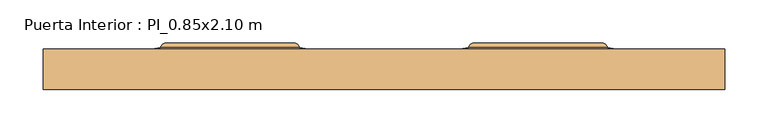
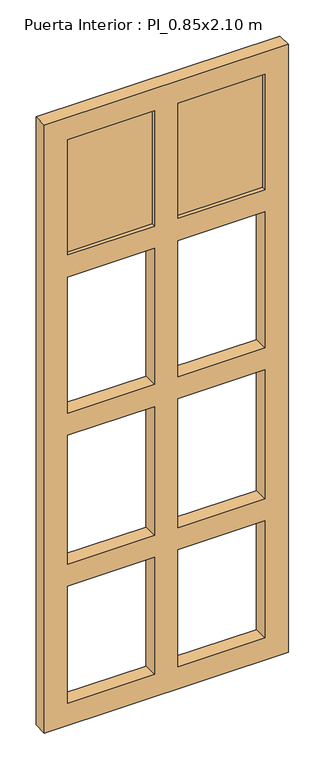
"""IFC4 building model written with IfcOpenShell, lengths in millimetres: door geometry, Puerta Interior : PI_0.85x2.10 m."""

import ifcopenshell
import ifcopenshell.guid

model = None  # the IFC model being written
_history = None  # IfcOwnerHistory: only IFC2X3 demands one
_inside = {}  # id of a spatial element -> (the spatial element, [elements in it])
_under = {}  # id of a project, library or spatial element -> (it, [spatial elements below it])
_declared = {}  # id of a project -> (the project, [libraries it declares])
_typed = {}  # id of a type object -> (the type object, [elements of that type])
_made_of = {}  # id of a material, layer set ... -> (it, [elements and type objects made of it])


def new_model(schema):
    """Start an empty IFC model of exactly this schema.

    Asked for "IFC4X3", IfcOpenShell would pick the latest addendum, in which some entities
    have other attributes; the version numbers below select the first issue.
    IFC2X3 requires an IfcOwnerHistory on every rooted entity: one is made here for all.
    """
    global model, _history
    if schema == "IFC4X3":
        model = ifcopenshell.file(schema_version=(4, 3, 0, 0))
    else:
        model = ifcopenshell.file(schema=schema)
    _inside.clear()
    _under.clear()
    _declared.clear()
    _typed.clear()
    _made_of.clear()
    _history = None
    if model.schema == "IFC2X3":
        org = make("IfcOrganization", Name="unknown")
        user = make(
            "IfcPersonAndOrganization",
            ThePerson=make("IfcPerson", FamilyName="unknown"),
            TheOrganization=org,
        )
        app = make(
            "IfcApplication",
            ApplicationDeveloper=org,
            Version="unknown",
            ApplicationFullName="unknown",
            ApplicationIdentifier="unknown",
        )
        _history = make(
            "IfcOwnerHistory",
            OwningUser=user,
            OwningApplication=app,
            ChangeAction="ADDED",
            CreationDate=0,
        )
    return model


def make(cls, **values):
    """One entity of the class cls with the attributes given. An attribute that is None is left unset."""
    return model.create_entity(
        cls, **{name: value for name, value in values.items() if value is not None}
    )


def rooted(cls, **values):
    """An entity with a GlobalId (a new one), such as an element, a storey or a relation."""
    return make(cls, GlobalId=ifcopenshell.guid.new(), OwnerHistory=_history, **values)


def si_unit(unit_type, name, prefix=None):
    """IfcSIUnit, for example si_unit("LENGTHUNIT", "METRE", prefix="MILLI")."""
    return make("IfcSIUnit", UnitType=unit_type, Prefix=prefix, Name=name)


def assignment(units):
    """IfcUnitAssignment: the units of a project."""
    return None if units is None else make("IfcUnitAssignment", Units=units)


def point(xyz):
    """IfcCartesianPoint."""
    return None if xyz is None else make("IfcCartesianPoint", Coordinates=xyz)


def direction(xyz):
    """IfcDirection."""
    return None if xyz is None else make("IfcDirection", DirectionRatios=xyz)


def frame(location, z_axis=None, x_axis=None):
    """IfcAxis2Placement3D, a coordinate frame: its origin and axes. An axis left out is left unset."""
    return make(
        "IfcAxis2Placement3D",
        Location=point(location),
        Axis=direction(z_axis),
        RefDirection=direction(x_axis),
    )


def origin():
    """The frame at (0, 0, 0) with its axes left unset."""
    return frame((0.0, 0.0, 0.0))


def place(relative_to, where):
    """IfcLocalPlacement: puts the frame where relative to a parent placement (None: the world)."""
    return make(
        "IfcLocalPlacement", PlacementRelTo=relative_to, RelativePlacement=where
    )


def context(
    kind, dimensions, precision=None, world=None, true_north=None, identifier=None
):
    """IfcGeometricRepresentationContext, for example the 3D "Model" context."""
    return make(
        "IfcGeometricRepresentationContext",
        ContextIdentifier=identifier,
        ContextType=kind,
        CoordinateSpaceDimension=dimensions,
        Precision=precision,
        WorldCoordinateSystem=world,
        TrueNorth=true_north,
    )


def project(units=None, contexts=None):
    """IfcProject with its units and contexts."""
    return rooted(
        "IfcProject",
        Name="project",
        RepresentationContexts=contexts,
        UnitsInContext=assignment(units),
    )


def spatial(cls, under=None, at=None, **own):
    """A site, building, storey or space (cls), placed at a placement, below another one or the project."""
    s = rooted(cls, ObjectPlacement=at, **own)
    if under is not None:
        _under.setdefault(under.id(), (under, []))[1].append(s)
    return s


def polyline(points):
    """IfcPolyline through the points."""
    return make("IfcPolyline", Points=[point(p) for p in points])


def ellipse_curve(where, semi_axis1, semi_axis2):
    """IfcEllipse in the frame where."""
    return make(
        "IfcEllipse", Position=where, SemiAxis1=semi_axis1, SemiAxis2=semi_axis2
    )


def outline(outer, holes=None, kind="AREA"):
    """IfcArbitraryClosedProfileDef: a profile drawn as a closed curve; with holes, ...WithVoids."""
    if holes is None:
        return make("IfcArbitraryClosedProfileDef", ProfileType=kind, OuterCurve=outer)
    return make(
        "IfcArbitraryProfileDefWithVoids",
        ProfileType=kind,
        OuterCurve=outer,
        InnerCurves=holes,
    )


def extrude(swept, where, along, depth):
    """IfcExtrudedAreaSolid: the profile swept, set in the frame where, extruded along a direction by depth."""
    return make(
        "IfcExtrudedAreaSolid",
        SweptArea=swept,
        Position=where,
        ExtrudedDirection=direction(along),
        Depth=depth,
    )


def shape(context_of_items, identifier, shape_type, items):
    """IfcShapeRepresentation: the items that make up one representation, for example the "Body"."""
    return make(
        "IfcShapeRepresentation",
        ContextOfItems=context_of_items,
        RepresentationIdentifier=identifier,
        RepresentationType=shape_type,
        Items=items,
    )


def source(mapping_origin, context_of_items, identifier, shape_type, items):
    """IfcRepresentationMap: a shape defined once, which mapped items show again and again."""
    return make(
        "IfcRepresentationMap",
        MappingOrigin=mapping_origin,
        MappedRepresentation=shape(context_of_items, identifier, shape_type, items),
    )


def transform(
    local_origin,
    x_axis=None,
    y_axis=None,
    z_axis=None,
    scale=None,
    scale2=None,
    scale3=None,
    uniform=True,
):
    """IfcCartesianTransformationOperator3D, or its non-uniform kind. x_axis, y_axis, z_axis: its Axis1, 2, 3."""
    if uniform:
        return make(
            "IfcCartesianTransformationOperator3D",
            Axis1=direction(x_axis),
            Axis2=direction(y_axis),
            LocalOrigin=point(local_origin),
            Scale=scale,
            Axis3=direction(z_axis),
        )
    return make(
        "IfcCartesianTransformationOperator3DnonUniform",
        Axis1=direction(x_axis),
        Axis2=direction(y_axis),
        LocalOrigin=point(local_origin),
        Scale=scale,
        Axis3=direction(z_axis),
        Scale2=scale2,
        Scale3=scale3,
    )


def mapped(mapping_source, mapping_target):
    """IfcMappedItem: shows the shape of a source again, moved by a transform."""
    return make(
        "IfcMappedItem", MappingSource=mapping_source, MappingTarget=mapping_target
    )


def made_of(thing, what):
    """Note that an element or type object is made of a material, layer set ...; save() writes the relation."""
    if what is not None:
        _made_of.setdefault(what.id(), (what, []))[1].append(thing)
    return thing


def element(
    cls,
    number,
    at=None,
    inside=None,
    cuts=None,
    type_object=None,
    material=None,
    context=None,
    identifier="Body",
    shape_type=None,
    held_by="IfcProductDefinitionShape",
    body=None,
    shapes=None,
    **own,
):
    """One element of the class cls, such as IfcWall. Its Tag is "e" and its number.

    at: its placement. inside: the storey or other place that contains it. cuts: it is an
    opening in that element (IfcRelVoidsElement). A single representation is given by context,
    identifier, shape_type and body (its items); several are given by shapes. held_by: the class
    of the entity that holds the representations. save() writes the other relations.
    """
    e = rooted(cls, Tag="e%d" % number, ObjectPlacement=at, **own)
    if body is not None:
        shapes = [shape(context, identifier, shape_type, body)]
    if shapes is not None:
        e.Representation = make(held_by, Representations=shapes)
    if inside is not None:
        _inside.setdefault(inside.id(), (inside, []))[1].append(e)
    if cuts is not None:
        rooted(
            "IfcRelVoidsElement", RelatingBuildingElement=cuts, RelatedOpeningElement=e
        )
    if type_object is not None:
        _typed.setdefault(type_object.id(), (type_object, []))[1].append(e)
    return made_of(e, material)


def aggregate(whole, parts):
    """IfcRelAggregates: a whole, such as a stair, and the parts it consists of."""
    return rooted("IfcRelAggregates", RelatingObject=whole, RelatedObjects=parts)


def save(model, path):
    """Write the relations noted so far, then the file.

    IfcRelAggregates (storeys below a building ...), IfcRelContainedInSpatialStructure (elements
    in a storey), IfcRelDefinesByType, IfcRelAssociatesMaterial and IfcRelDeclares: one each for
    every whole, place, type object, material and project.
    """
    for whole, parts in _under.values():
        aggregate(whole, parts)
    for where, things in _inside.values():
        rooted(
            "IfcRelContainedInSpatialStructure",
            RelatedElements=things,
            RelatingStructure=where,
        )
    for kind, things in _typed.values():
        rooted("IfcRelDefinesByType", RelatedObjects=things, RelatingType=kind)
    for what, things in _made_of.values():
        rooted("IfcRelAssociatesMaterial", RelatedObjects=things, RelatingMaterial=what)
    for by, libraries in _declared.values():
        rooted("IfcRelDeclares", RelatingContext=by, RelatedDefinitions=libraries)
    model.write(path)


def plane_surface(at):
    """IfcPlane: the flat surface through the origin of the frame at, square to its z axis."""
    return make("IfcPlane", Position=at)


def cylinder_surface(at, radius):
    """IfcCylindricalSurface: all points at the distance radius from the z axis of the frame at."""
    return make("IfcCylindricalSurface", Position=at, Radius=radius)


def advanced_brep(points, edges, surfaces, faces):
    """IfcAdvancedBrep: a solid bounded by faces that lie on surfaces and meet in shared edges.

    An edge is (start, end): straight between two places in points (the first is 0);
    or (start, end, curve); or (start, end, curve, False) where it runs against its curve.
    A face is (place in surfaces, loops), or (place, loops, False) where it looks against
    its surface's normal. A loop lists edges by number (the first is 1), with a minus sign
    where the edge is run from its end to its start. The first loop is the outer one.
    """
    corners = [point(p) for p in points]
    vertices = [make("IfcVertexPoint", VertexGeometry=c) for c in corners]
    made = []
    for start, end, *more in edges:
        made.append(
            make(
                "IfcEdgeCurve",
                EdgeStart=vertices[start],
                EdgeEnd=vertices[end],
                EdgeGeometry=more[0] if more else make("IfcPolyline", Points=[corners[start], corners[end]]),
                SameSense=more[1] if len(more) > 1 else True,
            )
        )
    hull = []
    for where, loops, *sense in faces:
        bounds = []
        for j, loop in enumerate(loops):
            ring = [make("IfcOrientedEdge", EdgeElement=made[abs(k) - 1], Orientation=k > 0) for k in loop]
            bounds.append(
                make(
                    "IfcFaceOuterBound" if j == 0 else "IfcFaceBound",
                    Bound=make("IfcEdgeLoop", EdgeList=ring),
                    Orientation=True,
                )
            )
        hull.append(make("IfcAdvancedFace", Bounds=bounds, FaceSurface=surfaces[where], SameSense=sense[0] if sense else True))
    return make("IfcAdvancedBrep", Outer=make("IfcClosedShell", CfsFaces=hull))


def puerta_interior_pi_0_85x2_10_m_d21131e5(model_context):
    return source(origin(), model_context, "Body", "SolidModel", [
        advanced_brep(
        [(-237.0, 0.0, 1912.0), (-117.5, 0.0, 1912.0), (-117.5, 0.0, 1680.0087316), (-237.0, 0.0, 1680.0087316), (-317.0, -35.0, 1600.0087316), (-37.5, -35.0, 1600.0087316), (-37.5, -35.0, 1992.0), (-317.0, -35.0, 1992.0), (-237.0, 5.0, 1912.0), (-237.0, 5.0, 1680.0087316), (-317.0, -10.0, 1992.0), (-317.0, -10.0, 1600.0087316), (-257.0, 0.0, 1932.0), (-257.0, 0.0, 1660.0087316), (-247.0, 0.0, 1922.0), (-247.0, 0.0, 1670.0087316), (-242.0, 5.0, 1917.0), (-242.0, 5.0, 1675.0087316), (-242.0, 0.0, 1675.0087316), (-242.0, 0.0, 1917.0), (-117.5, 5.0, 1680.0087316), (-37.5, -10.0, 1600.0087316), (-97.5, 0.0, 1660.0087316), (-107.5, 0.0, 1670.0087316), (-112.5, 5.0, 1675.0087316), (-112.5, 0.0, 1675.0087316), (-117.5, 5.0, 1912.0), (-37.5, -10.0, 1992.0), (-97.5, 0.0, 1932.0), (-107.5, 0.0, 1922.0), (-112.5, 5.0, 1917.0), (-112.5, 0.0, 1917.0)],
        [
            (0, 1),
            (1, 2),
            (2, 3),
            (3, 0),
            (4, 5),
            (5, 6),
            (6, 7),
            (7, 4),
            (8, 0),
            (3, 9),
            (9, 8),
            (10, 11),
            (11, 4),
            (7, 10),
            (10, 12),
            (12, 13),
            (13, 11),
            (12, 14, ellipse_curve(frame((-252.0, 0.0, 1927.0), z_axis=(-0.7071067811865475, 0.0, -0.7071067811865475), x_axis=(-0.7071067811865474, 0.0, 0.7071067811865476)), 7.0710678, 5.0)),
            (14, 15),
            (15, 13, ellipse_curve(frame((-252.0, 0.0, 1665.0087316), z_axis=(-0.7071067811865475, 0.0, 0.7071067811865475), x_axis=(0.7071067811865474, 0.0, 0.7071067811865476)), 7.0710678, 5.0)),
            (16, 17),
            (17, 18),
            (18, 19),
            (19, 16),
            (2, 20),
            (20, 9),
            (11, 21),
            (21, 5),
            (13, 22),
            (22, 21),
            (15, 23),
            (23, 22, ellipse_curve(frame((-102.5, 0.0, 1665.0087316), z_axis=(-0.7071067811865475, 0.0, -0.7071067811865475), x_axis=(-0.7071067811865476, 0.0, 0.7071067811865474)), 7.0710678, 5.0)),
            (17, 24),
            (24, 25),
            (25, 18),
            (1, 26),
            (26, 20),
            (21, 27),
            (27, 6),
            (22, 28),
            (28, 27),
            (23, 29),
            (29, 28, ellipse_curve(frame((-102.5, 0.0, 1927.0), z_axis=(0.7071067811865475, 0.0, -0.7071067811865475), x_axis=(-0.7071067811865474, 0.0, -0.7071067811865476)), 7.0710678, 5.0)),
            (24, 30),
            (30, 31),
            (31, 25),
            (8, 26),
            (27, 10),
            (28, 12),
            (29, 14),
            (31, 19),
            (30, 16),
        ],
        [
            plane_surface(frame((-237.0, 0.0, 1912.0), z_axis=(0.0, 1.0, 0.0), x_axis=(0.0, 0.0, -1.0))),
            plane_surface(frame((-237.0, -35.0, 1912.0), z_axis=(0.0, -1.0, 0.0), x_axis=(0.0, 0.0, 1.0))),
            plane_surface(frame((-237.0, 5.0, 1912.0), z_axis=(1.0, 0.0, 0.0), x_axis=(0.0, 0.0, -1.0))),
            plane_surface(frame((-317.0, -35.0, 1992.0), z_axis=(-1.0, 0.0, 0.0), x_axis=(0.0, 0.0, -1.0))),
            plane_surface(frame((-317.0, -10.0, 1992.0), z_axis=(-0.1643989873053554, 0.9863939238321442, 0.0), x_axis=(0.0, 0.0, -1.0))),
            cylinder_surface(frame((-252.0, 0.0, 1992.0), z_axis=(0.0, 0.0, 1.0), x_axis=(0.0, -1.0, 0.0)), 5.0),
            plane_surface(frame((-242.0, 0.0, 1917.0), z_axis=(-1.0, 0.0, 0.0), x_axis=(0.0, 0.0, -1.0))),
            plane_surface(frame((-237.0, 5.0, 1680.0087316), z_axis=(0.0, 0.0, 1.0), x_axis=(1.0, 0.0, 0.0))),
            plane_surface(frame((-317.0, -35.0, 1600.0087316), z_axis=(0.0, 0.0, -1.0), x_axis=(1.0, 0.0, 0.0))),
            plane_surface(frame((-317.0, -10.0, 1600.0087316), z_axis=(0.0, 0.9863939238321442, -0.1643989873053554), x_axis=(1.0, 0.0, 0.0))),
            cylinder_surface(frame((-317.0, 0.0, 1665.0087316), z_axis=(-1.0, 0.0, 0.0), x_axis=(0.0, -1.0, 0.0)), 5.0),
            plane_surface(frame((-242.0, 0.0, 1675.0087316), z_axis=(0.0, 0.0, -1.0), x_axis=(1.0, 0.0, 0.0))),
            plane_surface(frame((-117.5, 5.0, 1680.0087316), z_axis=(-1.0, 0.0, 0.0), x_axis=(0.0, 0.0, 1.0))),
            plane_surface(frame((-37.5, -35.0, 1600.0087316), z_axis=(1.0, 0.0, 0.0), x_axis=(0.0, 0.0, 1.0))),
            plane_surface(frame((-37.5, -10.0, 1600.0087316), z_axis=(0.1643989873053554, 0.9863939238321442, 0.0), x_axis=(0.0, 0.0, 1.0))),
            cylinder_surface(frame((-102.5, 0.0, 1600.0087316), z_axis=(0.0, 0.0, -1.0), x_axis=(0.0, -1.0, 0.0)), 5.0),
            plane_surface(frame((-112.5, 0.0, 1675.0087316), z_axis=(1.0, 0.0, 0.0), x_axis=(0.0, 0.0, 1.0))),
            plane_surface(frame((-117.5, 5.0, 1912.0), z_axis=(0.0, 0.0, -1.0), x_axis=(-1.0, 0.0, 0.0))),
            plane_surface(frame((-37.5, -35.0, 1992.0), z_axis=(0.0, 0.0, 1.0), x_axis=(-1.0, 0.0, 0.0))),
            plane_surface(frame((-37.5, -10.0, 1992.0), z_axis=(0.0, 0.9863939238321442, 0.1643989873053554), x_axis=(-1.0, 0.0, 0.0))),
            cylinder_surface(frame((-37.5, 0.0, 1927.0), z_axis=(1.0, 0.0, 0.0), x_axis=(0.0, -1.0, 0.0)), 5.0),
            plane_surface(frame((-107.5, 0.0, 1922.0), z_axis=(0.0, 1.0, 0.0), x_axis=(-1.0, 0.0, 0.0))),
            plane_surface(frame((-112.5, 0.0, 1917.0), z_axis=(0.0, 0.0, 1.0), x_axis=(-1.0, 0.0, 0.0))),
            plane_surface(frame((-112.5, 5.0, 1917.0), z_axis=(0.0, 1.0, 0.0), x_axis=(-1.0, 0.0, 0.0))),
        ],
        [
            (0, [[1, 2, 3, 4]]),
            (1, [[5, 6, 7, 8]]),
            (2, [[9, -4, 10, 11]]),
            (3, [[12, 13, -8, 14]]),
            (4, [[15, 16, 17, -12]]),
            (5, [[18, 19, 20, -16]]),
            (6, [[21, 22, 23, 24]]),
            (7, [[-10, -3, 25, 26]]),
            (8, [[27, 28, -5, -13]]),
            (9, [[29, 30, -27, -17]]),
            (10, [[31, 32, -29, -20]]),
            (11, [[33, 34, 35, -22]]),
            (12, [[-25, -2, 36, 37]]),
            (13, [[38, 39, -6, -28]]),
            (14, [[40, 41, -38, -30]]),
            (15, [[42, 43, -40, -32]]),
            (16, [[44, 45, 46, -34]]),
            (17, [[-36, -1, -9, 47]]),
            (18, [[-7, -39, 48, -14]]),
            (19, [[-48, -41, 49, -15]]),
            (20, [[-49, -43, 50, -18]]),
            (21, [[-50, -42, -31, -19], [-35, -46, 51, -23]]),
            (22, [[-51, -45, 52, -24]]),
            (23, [[-52, -44, -33, -21], [-26, -37, -47, -11]]),
        ],
    ),
        advanced_brep(
        [(117.5, 5.0, 1912.0), (117.5, 0.0, 1912.0), (117.5, 0.0, 1680.0087316), (117.5, 5.0, 1680.0087316), (37.5, -10.0, 1992.0), (37.5, -10.0, 1600.0087316), (37.5, -35.0, 1600.0087316), (37.5, -35.0, 1992.0), (97.5, 0.0, 1932.0), (97.5, 0.0, 1660.0087316), (107.5, 0.0, 1922.0), (107.5, 0.0, 1670.0087316), (112.5, 5.0, 1917.0), (112.5, 5.0, 1675.0087316), (112.5, 0.0, 1675.0087316), (112.5, 0.0, 1917.0), (237.0, 0.0, 1680.0087316), (237.0, 5.0, 1680.0087316), (317.0, -10.0, 1600.0087316), (317.0, -35.0, 1600.0087316), (257.0, 0.0, 1660.0087316), (247.0, 0.0, 1670.0087316), (242.0, 5.0, 1675.0087316), (242.0, 0.0, 1675.0087316), (237.0, 0.0, 1912.0), (237.0, 5.0, 1912.0), (317.0, -10.0, 1992.0), (317.0, -35.0, 1992.0), (257.0, 0.0, 1932.0), (247.0, 0.0, 1922.0), (242.0, 5.0, 1917.0), (242.0, 0.0, 1917.0)],
        [
            (0, 1),
            (1, 2),
            (2, 3),
            (3, 0),
            (4, 5),
            (5, 6),
            (6, 7),
            (7, 4),
            (4, 8),
            (8, 9),
            (9, 5),
            (8, 10, ellipse_curve(frame((102.5, 0.0, 1927.0), z_axis=(-0.7071067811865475, 0.0, -0.7071067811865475), x_axis=(-0.7071067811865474, 0.0, 0.7071067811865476)), 7.0710678, 5.0)),
            (10, 11),
            (11, 9, ellipse_curve(frame((102.5, 0.0, 1665.0087316), z_axis=(-0.7071067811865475, 0.0, 0.7071067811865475), x_axis=(0.7071067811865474, 0.0, 0.7071067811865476)), 7.0710678, 5.0)),
            (12, 13),
            (13, 14),
            (14, 15),
            (15, 12),
            (2, 16),
            (16, 17),
            (17, 3),
            (5, 18),
            (18, 19),
            (19, 6),
            (9, 20),
            (20, 18),
            (11, 21),
            (21, 20, ellipse_curve(frame((252.0, 0.0, 1665.0087316), z_axis=(-0.7071067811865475, 0.0, -0.7071067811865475), x_axis=(-0.7071067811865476, 0.0, 0.7071067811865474)), 7.0710678, 5.0)),
            (13, 22),
            (22, 23),
            (23, 14),
            (16, 24),
            (24, 25),
            (25, 17),
            (18, 26),
            (26, 27),
            (27, 19),
            (20, 28),
            (28, 26),
            (21, 29),
            (29, 28, ellipse_curve(frame((252.0, 0.0, 1927.0), z_axis=(0.7071067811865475, 0.0, -0.7071067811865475), x_axis=(-0.7071067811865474, 0.0, -0.7071067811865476)), 7.0710678, 5.0)),
            (22, 30),
            (30, 31),
            (31, 23),
            (24, 1),
            (0, 25),
            (27, 7),
            (26, 4),
            (28, 8),
            (29, 10),
            (31, 15),
            (30, 12),
        ],
        [
            plane_surface(frame((117.5, 5.0, 1912.0), z_axis=(1.0, 0.0, 0.0), x_axis=(0.0, 0.0, -1.0))),
            plane_surface(frame((37.5, -35.0, 1992.0), z_axis=(-1.0, 0.0, 0.0), x_axis=(0.0, 0.0, -1.0))),
            plane_surface(frame((37.5, -10.0, 1992.0), z_axis=(-0.1643989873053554, 0.9863939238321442, 0.0), x_axis=(0.0, 0.0, -1.0))),
            cylinder_surface(frame((102.5, 0.0, 1992.0), z_axis=(0.0, 0.0, 1.0), x_axis=(0.0, -1.0, 0.0)), 5.0),
            plane_surface(frame((112.5, 0.0, 1917.0), z_axis=(-1.0, 0.0, 0.0), x_axis=(0.0, 0.0, -1.0))),
            plane_surface(frame((117.5, 5.0, 1680.0087316), z_axis=(0.0, 0.0, 1.0), x_axis=(1.0, 0.0, 0.0))),
            plane_surface(frame((37.5, -35.0, 1600.0087316), z_axis=(0.0, 0.0, -1.0), x_axis=(1.0, 0.0, 0.0))),
            plane_surface(frame((37.5, -10.0, 1600.0087316), z_axis=(0.0, 0.9863939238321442, -0.1643989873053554), x_axis=(1.0, 0.0, 0.0))),
            cylinder_surface(frame((37.5, 0.0, 1665.0087316), z_axis=(-1.0, 0.0, 0.0), x_axis=(0.0, -1.0, 0.0)), 5.0),
            plane_surface(frame((112.5, 0.0, 1675.0087316), z_axis=(0.0, 0.0, -1.0), x_axis=(1.0, 0.0, 0.0))),
            plane_surface(frame((237.0, 5.0, 1680.0087316), z_axis=(-1.0, 0.0, 0.0), x_axis=(0.0, 0.0, 1.0))),
            plane_surface(frame((317.0, -35.0, 1600.0087316), z_axis=(1.0, 0.0, 0.0), x_axis=(0.0, 0.0, 1.0))),
            plane_surface(frame((317.0, -10.0, 1600.0087316), z_axis=(0.1643989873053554, 0.9863939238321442, 0.0), x_axis=(0.0, 0.0, 1.0))),
            cylinder_surface(frame((252.0, 0.0, 1600.0087316), z_axis=(0.0, 0.0, -1.0), x_axis=(0.0, -1.0, 0.0)), 5.0),
            plane_surface(frame((242.0, 0.0, 1675.0087316), z_axis=(1.0, 0.0, 0.0), x_axis=(0.0, 0.0, 1.0))),
            plane_surface(frame((237.0, 5.0, 1912.0), z_axis=(0.0, 0.0, -1.0), x_axis=(-1.0, 0.0, 0.0))),
            plane_surface(frame((237.0, -35.0, 1912.0), z_axis=(0.0, -1.0, 0.0), x_axis=(-1.0, 0.0, 0.0))),
            plane_surface(frame((317.0, -35.0, 1992.0), z_axis=(0.0, 0.0, 1.0), x_axis=(-1.0, 0.0, 0.0))),
            plane_surface(frame((317.0, -10.0, 1992.0), z_axis=(0.0, 0.9863939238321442, 0.1643989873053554), x_axis=(-1.0, 0.0, 0.0))),
            cylinder_surface(frame((317.0, 0.0, 1927.0), z_axis=(1.0, 0.0, 0.0), x_axis=(0.0, -1.0, 0.0)), 5.0),
            plane_surface(frame((247.0, 0.0, 1922.0), z_axis=(0.0, 1.0, 0.0), x_axis=(-1.0, 0.0, 0.0))),
            plane_surface(frame((242.0, 0.0, 1917.0), z_axis=(0.0, 0.0, 1.0), x_axis=(-1.0, 0.0, 0.0))),
            plane_surface(frame((242.0, 5.0, 1917.0), z_axis=(0.0, 1.0, 0.0), x_axis=(-1.0, 0.0, 0.0))),
            plane_surface(frame((117.5, 0.0, 1912.0), z_axis=(0.0, 1.0, 0.0), x_axis=(0.0, 0.0, -1.0))),
        ],
        [
            (0, [[1, 2, 3, 4]]),
            (1, [[5, 6, 7, 8]]),
            (2, [[9, 10, 11, -5]]),
            (3, [[12, 13, 14, -10]]),
            (4, [[15, 16, 17, 18]]),
            (5, [[-3, 19, 20, 21]]),
            (6, [[22, 23, 24, -6]]),
            (7, [[25, 26, -22, -11]]),
            (8, [[27, 28, -25, -14]]),
            (9, [[29, 30, 31, -16]]),
            (10, [[-20, 32, 33, 34]]),
            (11, [[35, 36, 37, -23]]),
            (12, [[38, 39, -35, -26]]),
            (13, [[40, 41, -38, -28]]),
            (14, [[42, 43, 44, -30]]),
            (15, [[-33, 45, -1, 46]]),
            (16, [[-24, -37, 47, -7]]),
            (17, [[-47, -36, 48, -8]]),
            (18, [[-48, -39, 49, -9]]),
            (19, [[-49, -41, 50, -12]]),
            (20, [[-50, -40, -27, -13], [-31, -44, 51, -17]]),
            (21, [[-51, -43, 52, -18]]),
            (22, [[-52, -42, -29, -15], [-21, -34, -46, -4]]),
            (23, [[-45, -32, -19, -2]]),
        ],
    ),
        extrude(outline(polyline([(2067.0, 392.0), (2067.0, -392.0), (2.5, -392.0), (2.5, 392.0), (2067.0, 392.0)]), holes=[polyline([(987.5174632, 317.0), (550.0087316, 317.0), (550.0087316, 37.5), (987.5174632, 37.5), (987.5174632, 317.0)]), polyline([(987.5174632, -37.5), (550.0087316, -37.5), (550.0087316, -317.0), (987.5174632, -317.0), (987.5174632, -37.5)]), polyline([(1062.5174632, 37.5), (1525.0087316, 37.5), (1525.0087316, 317.0), (1062.5174632, 317.0), (1062.5174632, 37.5)]), polyline([(475.0087316, 37.5), (475.0087316, 317.0), (77.5, 317.0), (77.5, 37.5), (475.0087316, 37.5)]), polyline([(475.0087316, -37.5), (77.5, -37.5), (77.5, -317.0), (475.0087316, -317.0), (475.0087316, -37.5)]), polyline([(1600.0087316, -37.5), (1600.0087316, -317.0), (1992.0, -317.0), (1992.0, -37.5), (1600.0087316, -37.5)]), polyline([(1525.0087316, -37.5), (1062.5174632, -37.5), (1062.5174632, -317.0), (1525.0087316, -317.0), (1525.0087316, -37.5)]), polyline([(1600.0087316, 37.5), (1992.0, 37.5), (1992.0, 317.0), (1600.0087316, 317.0), (1600.0087316, 37.5)])]), frame((0.0, -48.203125, 0.0), z_axis=(0.0, 1.0, 0.0), x_axis=(0.0, 0.0, 1.0)), (0.0, 0.0, 1.0), 46.4),
    ])


if __name__ == "__main__":
    model = new_model("IFC4")
    model_context = context("Model", 3, world=origin())
    ifc_project = project(units=[si_unit("LENGTHUNIT", "METRE", prefix="MILLI")], contexts=[model_context])
    site = spatial("IfcSite", under=ifc_project)
    building = spatial("IfcBuilding", under=site)
    placement = place(None, origin())
    puerta_interior_pi_0_85x2_10_m_shape = puerta_interior_pi_0_85x2_10_m_d21131e5(model_context)
    element("IfcDoor", 1, ObjectType="Puerta Interior : PI_0.85x2.10 m", at=placement, inside=building, context=model_context, shape_type="MappedRepresentation", body=[
        mapped(puerta_interior_pi_0_85x2_10_m_shape, transform((0.0, 0.0, 0.0), x_axis=(1.0, 0.0, 0.0), y_axis=(0.0, 1.0, 0.0), z_axis=(0.0, 0.0, 1.0))),
    ])
    save(model, "model.ifc")
